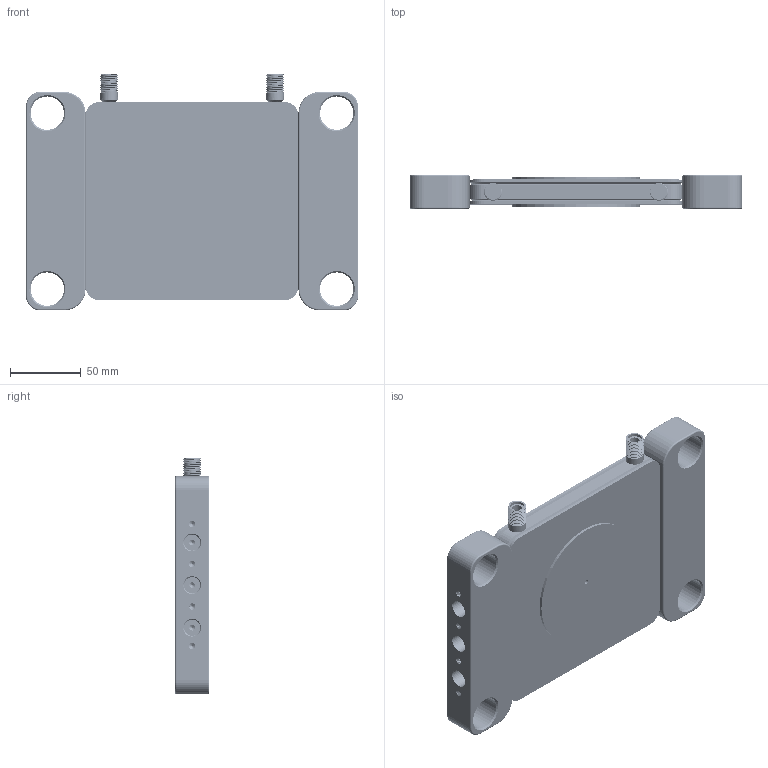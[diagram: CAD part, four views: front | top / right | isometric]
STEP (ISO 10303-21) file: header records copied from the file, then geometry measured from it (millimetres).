
FILE_DESCRIPTION (( 'STEP AP214' ), '1' );
FILE_NAME ('ÍÎÆ_90_ñ_ïëàñòèêîì.STEP', '2025-08-06T15:14:48', ( '' ), ( '' ), 'SwSTEP 2.0', 'SolidWorks 2024', '' );
FILE_SCHEMA (( 'AUTOMOTIVE_DESIGN' ));
Length unit declared in the file: millimetre
Products named in the file (8): ЛИРАC (1); НОЖ_90_с_пластиком; НОЖлого (1); крышка верхняя; корпус; socket csink head cap screw 10642_din_EN ISO 10642 - M6 x 30 - 24N; пластик боковой; кастомный_ниппель
Assembly tree (15 placements, depth 2):
  НОЖ_90_с_пластиком
    корпус
    кастомный_ниппель  x2
    крышка верхняя  x2
    пластик боковой  x2
    ЛИРАC (1)
    НОЖлого (1)
    socket csink head cap screw 10642_din_EN ISO 10642 - M6 x 30 - 24N  x6
Bounding box: 234 x 24.2 x 166.85 mm (x, y, z)
Volume: 542079 mm3; surface area: 235100.8 mm2
Topology: 15 solids, 15 shells, 1933 faces, 5199 edges, 3312 vertices
Faces by surface type: cylinder 1095, plane 614, cone 120, bspline 60, torus 44
Entity records: 64018 total; most frequent: CARTESIAN_POINT 35599, ORIENTED_EDGE 6474, DIRECTION 5401, EDGE_CURVE 3237, VERTEX_POINT 2090, AXIS2_PLACEMENT_3D 1862, VECTOR 1677, LINE 1677
